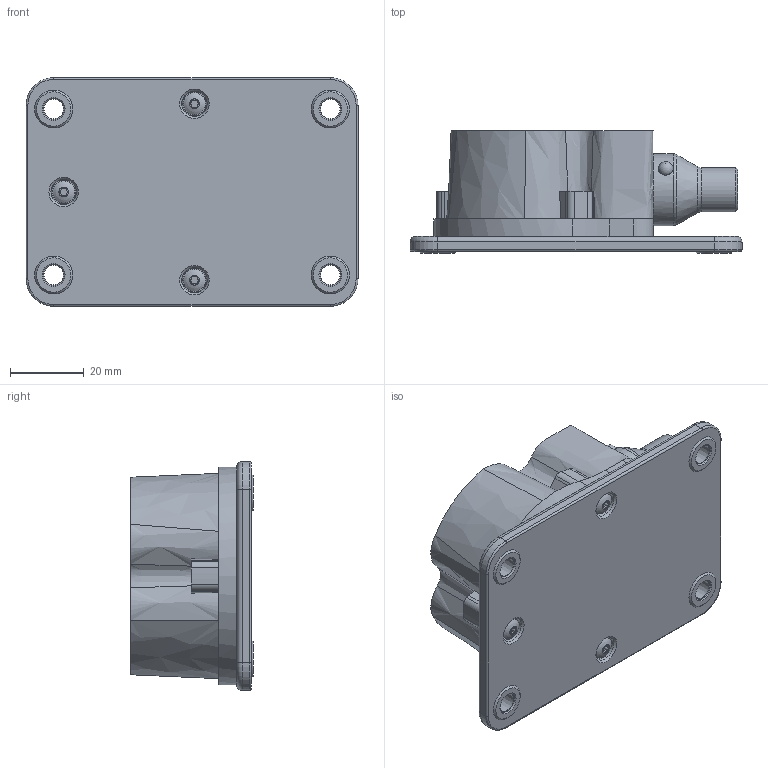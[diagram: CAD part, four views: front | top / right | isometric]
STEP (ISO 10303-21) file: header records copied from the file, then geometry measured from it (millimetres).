
FILE_DESCRIPTION( ( 'STEP AP203' ), ' ' );
FILE_NAME( 'p:/temp/worker_634/5844_3016/app_40_02016090112500799528720192d056f_000000_00_00_000000/format_4/JN2200.stp', '2016-09-01T10:50:19', ( '' ), ( '' ), ' ', 'PARTsolutions', ' ' );
FILE_SCHEMA( ( 'CONFIG_CONTROL_DESIGN' ) );
Length unit declared in the file: millimetre
Products named in the file (1): _JN2200
Bounding box: 90 x 33.2 x 62 mm (x, y, z)
Volume: 105982.5 mm3; surface area: 20582.4 mm2
Topology: 1 solids, 1 shells, 212 faces, 535 edges, 347 vertices
Faces by surface type: cylinder 102, plane 52, cone 26, torus 14, bspline 11, sphere 7
Full cylindrical faces by diameter (mm): 5.6 x4, 6 x3, 8.5 x2, 12 x2, 19.5 x2
Entity records: 6930 total; most frequent: CARTESIAN_POINT 1986, DIRECTION 1055, ORIENTED_EDGE 944, EDGE_CURVE 472, AXIS2_PLACEMENT_3D 456, VERTEX_POINT 338, EDGE_LOOP 292, CIRCLE 254
